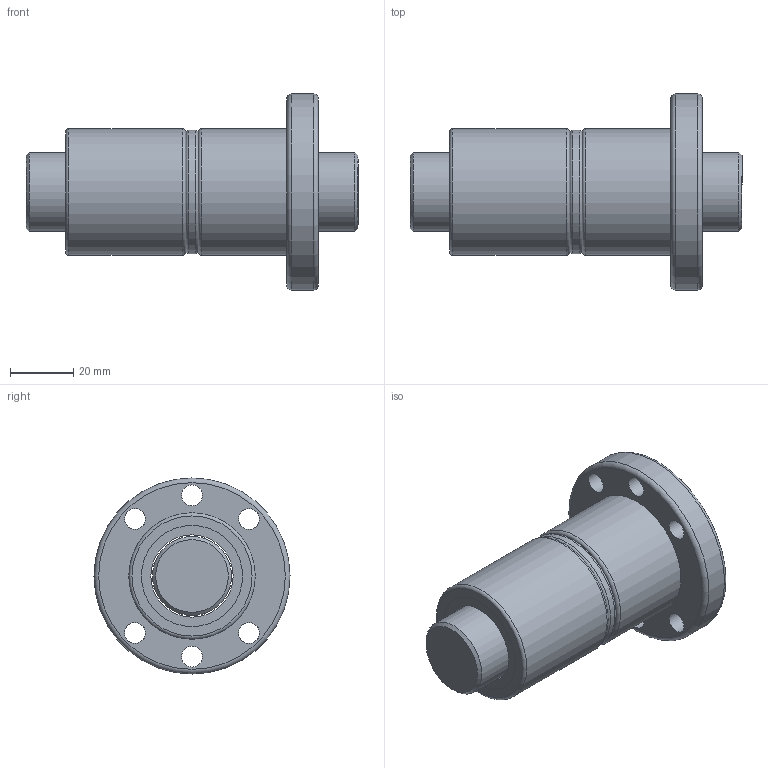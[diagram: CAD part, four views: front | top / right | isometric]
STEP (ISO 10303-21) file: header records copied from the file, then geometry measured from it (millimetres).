
FILE_DESCRIPTION(/* description */ (''),/* implementation_level */ '2;1');
FILE_NAME(/* name */ 'DFU2504',/* time_stamp */ '2007-10-26T10:53:33+08:00',/* author */ (''),/* organization */ (''),/* preprocessor_version */ 'ST-DEVELOPER v9',/* originating_system */ 'EDS PLM SOLUTIONS - UNIGRAPHICS NX 1.0',/* authorisation */ '');
FILE_SCHEMA (('CONFIG_CONTROL_DESIGN'));
Length unit declared in the file: millimetre
Products named in the file (1): FANNDA0400co
Bounding box: 105 x 62 x 62 mm (x, y, z)
Volume: 124527.3 mm3; surface area: 37570.4 mm2
Topology: 6 solids, 6 shells, 44 faces, 83 edges, 54 vertices
Faces by surface type: cylinder 20, plane 15, torus 7, cone 2
Full cylindrical faces by diameter (mm): 6.6 x6, 25 x1, 26 x5, 32 x4, 39 x1, 40 x2, 62 x1
Entity records: 1054 total; most frequent: DIRECTION 188, CARTESIAN_POINT 143, EDGE_LOOP 98, ORIENTED_EDGE 98, AXIS2_PLACEMENT_3D 94, FACE_BOUND 81, VERTEX_POINT 49, EDGE_CURVE 49
